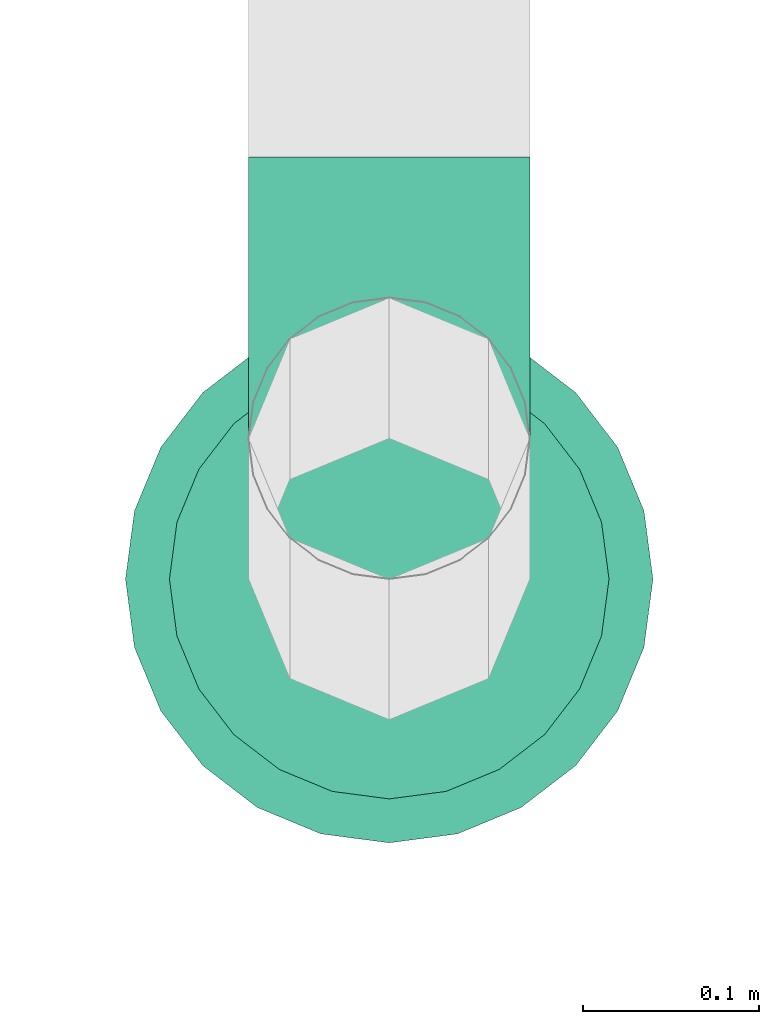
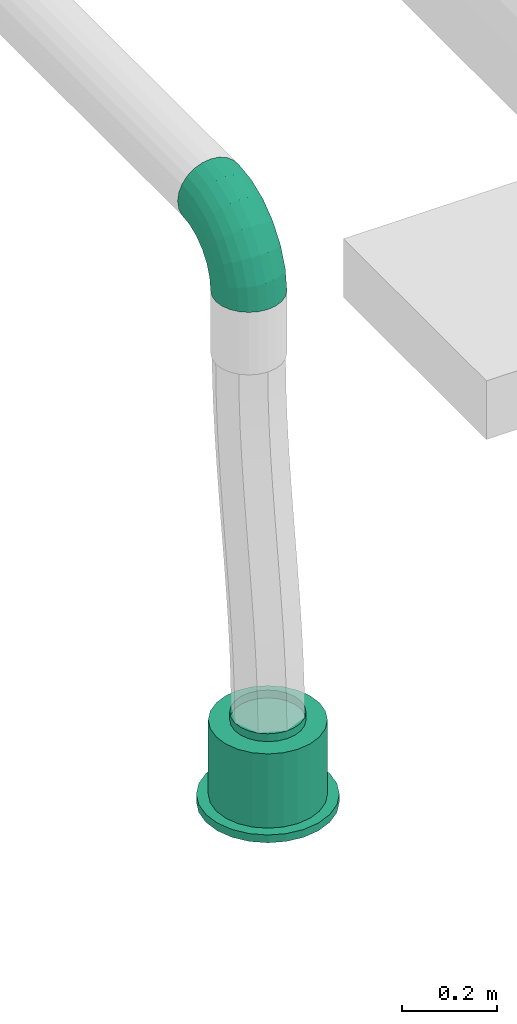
# One storey, part 183 of 374: 1 flow fitting, 1 flow terminal.
"""IFC2X3 building model written with IfcOpenShell, lengths in metres."""

import ifcopenshell
import ifcopenshell.guid

model = None  # the IFC model being written
_history = None  # IfcOwnerHistory: only IFC2X3 demands one
_inside = {}  # id of a spatial element -> (the spatial element, [elements in it])
_under = {}  # id of a project, library or spatial element -> (it, [spatial elements below it])
_declared = {}  # id of a project -> (the project, [libraries it declares])
_typed = {}  # id of a type object -> (the type object, [elements of that type])
_made_of = {}  # id of a material, layer set ... -> (it, [elements and type objects made of it])


def new_model(schema):
    """Start an empty IFC model of exactly this schema.

    Asked for "IFC4X3", IfcOpenShell would pick the latest addendum, in which some entities
    have other attributes; the version numbers below select the first issue.
    IFC2X3 requires an IfcOwnerHistory on every rooted entity: one is made here for all.
    """
    global model, _history
    if schema == "IFC4X3":
        model = ifcopenshell.file(schema_version=(4, 3, 0, 0))
    else:
        model = ifcopenshell.file(schema=schema)
    _inside.clear()
    _under.clear()
    _declared.clear()
    _typed.clear()
    _made_of.clear()
    _history = None
    if model.schema == "IFC2X3":
        org = make("IfcOrganization", Name="unknown")
        user = make(
            "IfcPersonAndOrganization",
            ThePerson=make("IfcPerson", FamilyName="unknown"),
            TheOrganization=org,
        )
        app = make(
            "IfcApplication",
            ApplicationDeveloper=org,
            Version="unknown",
            ApplicationFullName="unknown",
            ApplicationIdentifier="unknown",
        )
        _history = make(
            "IfcOwnerHistory",
            OwningUser=user,
            OwningApplication=app,
            ChangeAction="ADDED",
            CreationDate=0,
        )
    return model


def make(cls, **values):
    """One entity of the class cls with the attributes given. An attribute that is None is left unset."""
    return model.create_entity(
        cls, **{name: value for name, value in values.items() if value is not None}
    )


def rooted(cls, **values):
    """An entity with a GlobalId (a new one), such as an element, a storey or a relation."""
    return make(cls, GlobalId=ifcopenshell.guid.new(), OwnerHistory=_history, **values)


def si_unit(unit_type, name, prefix=None):
    """IfcSIUnit, for example si_unit("LENGTHUNIT", "METRE", prefix="MILLI")."""
    return make("IfcSIUnit", UnitType=unit_type, Prefix=prefix, Name=name)


def assignment(units):
    """IfcUnitAssignment: the units of a project."""
    return None if units is None else make("IfcUnitAssignment", Units=units)


def point(xyz):
    """IfcCartesianPoint."""
    return None if xyz is None else make("IfcCartesianPoint", Coordinates=xyz)


def direction(xyz):
    """IfcDirection."""
    return None if xyz is None else make("IfcDirection", DirectionRatios=xyz)


def frame(location, z_axis=None, x_axis=None):
    """IfcAxis2Placement3D, a coordinate frame: its origin and axes. An axis left out is left unset."""
    return make(
        "IfcAxis2Placement3D",
        Location=point(location),
        Axis=direction(z_axis),
        RefDirection=direction(x_axis),
    )


def origin():
    """The frame at (0, 0, 0) with its axes left unset."""
    return frame((0.0, 0.0, 0.0))


def place(relative_to, where):
    """IfcLocalPlacement: puts the frame where relative to a parent placement (None: the world)."""
    return make(
        "IfcLocalPlacement", PlacementRelTo=relative_to, RelativePlacement=where
    )


def context(
    kind, dimensions, precision=None, world=None, true_north=None, identifier=None
):
    """IfcGeometricRepresentationContext, for example the 3D "Model" context."""
    return make(
        "IfcGeometricRepresentationContext",
        ContextIdentifier=identifier,
        ContextType=kind,
        CoordinateSpaceDimension=dimensions,
        Precision=precision,
        WorldCoordinateSystem=world,
        TrueNorth=true_north,
    )


def subcontext(parent, identifier, kind, view, scale=None):
    """IfcGeometricRepresentationSubContext, for example "Body" below "Model"."""
    return make(
        "IfcGeometricRepresentationSubContext",
        ContextIdentifier=identifier,
        ContextType=kind,
        ParentContext=parent,
        TargetScale=scale,
        TargetView=view,
    )


def project(units=None, contexts=None):
    """IfcProject with its units and contexts."""
    return rooted(
        "IfcProject",
        Name="project",
        RepresentationContexts=contexts,
        UnitsInContext=assignment(units),
    )


def spatial(cls, under=None, at=None, **own):
    """A site, building, storey or space (cls), placed at a placement, below another one or the project."""
    s = rooted(cls, ObjectPlacement=at, **own)
    if under is not None:
        _under.setdefault(under.id(), (under, []))[1].append(s)
    return s


def faces_of(points, faces, orient=None, outer=None):
    """IfcFace entities. A face is a list of loops; a loop is a list of indices into points, from 0.

    orient and outer hold one flag for each loop. By default every Orientation is true, the
    first loop of a face is its IfcFaceOuterBound and the others are IfcFaceBound.
    """
    made = []
    for i, loops in enumerate(faces):
        bounds = []
        for j, loop in enumerate(loops):
            is_outer = j == 0 if outer is None else outer[i][j]
            bounds.append(
                make(
                    "IfcFaceOuterBound" if is_outer else "IfcFaceBound",
                    Bound=make("IfcPolyLoop", Polygon=[points[k] for k in loop]),
                    Orientation=True if orient is None else orient[i][j],
                )
            )
        made.append(make("IfcFace", Bounds=bounds))
    return made


def open_shell(faces, orient=None, outer=None):
    """The faces of one IfcOpenShell. surface_model builds it on its shared points."""
    return ("IfcOpenShell", faces, orient, outer)


def surface_model(cls, points, shells):
    """IfcFaceBasedSurfaceModel or IfcShellBasedSurfaceModel (cls): surfaces that need not close."""
    shared = [point(p) for p in points]
    made = [make(c, CfsFaces=faces_of(shared, fs, o, b)) for c, fs, o, b in shells]
    if cls == "IfcFaceBasedSurfaceModel":
        return make(cls, FbsmFaces=made)
    return make(cls, SbsmBoundary=made)


def shape(context_of_items, identifier, shape_type, items):
    """IfcShapeRepresentation: the items that make up one representation, for example the "Body"."""
    return make(
        "IfcShapeRepresentation",
        ContextOfItems=context_of_items,
        RepresentationIdentifier=identifier,
        RepresentationType=shape_type,
        Items=items,
    )


def source(mapping_origin, context_of_items, identifier, shape_type, items):
    """IfcRepresentationMap: a shape defined once, which mapped items show again and again."""
    return make(
        "IfcRepresentationMap",
        MappingOrigin=mapping_origin,
        MappedRepresentation=shape(context_of_items, identifier, shape_type, items),
    )


def transform(
    local_origin,
    x_axis=None,
    y_axis=None,
    z_axis=None,
    scale=None,
    scale2=None,
    scale3=None,
    uniform=True,
):
    """IfcCartesianTransformationOperator3D, or its non-uniform kind. x_axis, y_axis, z_axis: its Axis1, 2, 3."""
    if uniform:
        return make(
            "IfcCartesianTransformationOperator3D",
            Axis1=direction(x_axis),
            Axis2=direction(y_axis),
            LocalOrigin=point(local_origin),
            Scale=scale,
            Axis3=direction(z_axis),
        )
    return make(
        "IfcCartesianTransformationOperator3DnonUniform",
        Axis1=direction(x_axis),
        Axis2=direction(y_axis),
        LocalOrigin=point(local_origin),
        Scale=scale,
        Axis3=direction(z_axis),
        Scale2=scale2,
        Scale3=scale3,
    )


def mapped(mapping_source, mapping_target):
    """IfcMappedItem: shows the shape of a source again, moved by a transform."""
    return make(
        "IfcMappedItem", MappingSource=mapping_source, MappingTarget=mapping_target
    )


def made_of(thing, what):
    """Note that an element or type object is made of a material, layer set ...; save() writes the relation."""
    if what is not None:
        _made_of.setdefault(what.id(), (what, []))[1].append(thing)
    return thing


def element(
    cls,
    number,
    at=None,
    inside=None,
    cuts=None,
    type_object=None,
    material=None,
    context=None,
    identifier="Body",
    shape_type=None,
    held_by="IfcProductDefinitionShape",
    body=None,
    shapes=None,
    **own,
):
    """One element of the class cls, such as IfcWall. Its Tag is "e" and its number.

    at: its placement. inside: the storey or other place that contains it. cuts: it is an
    opening in that element (IfcRelVoidsElement). A single representation is given by context,
    identifier, shape_type and body (its items); several are given by shapes. held_by: the class
    of the entity that holds the representations. save() writes the other relations.
    """
    e = rooted(cls, Tag="e%d" % number, ObjectPlacement=at, **own)
    if body is not None:
        shapes = [shape(context, identifier, shape_type, body)]
    if shapes is not None:
        e.Representation = make(held_by, Representations=shapes)
    if inside is not None:
        _inside.setdefault(inside.id(), (inside, []))[1].append(e)
    if cuts is not None:
        rooted(
            "IfcRelVoidsElement", RelatingBuildingElement=cuts, RelatedOpeningElement=e
        )
    if type_object is not None:
        _typed.setdefault(type_object.id(), (type_object, []))[1].append(e)
    return made_of(e, material)


def aggregate(whole, parts):
    """IfcRelAggregates: a whole, such as a stair, and the parts it consists of."""
    return rooted("IfcRelAggregates", RelatingObject=whole, RelatedObjects=parts)


def save(model, path):
    """Write the relations noted so far, then the file.

    IfcRelAggregates (storeys below a building ...), IfcRelContainedInSpatialStructure (elements
    in a storey), IfcRelDefinesByType, IfcRelAssociatesMaterial and IfcRelDeclares: one each for
    every whole, place, type object, material and project.
    """
    for whole, parts in _under.values():
        aggregate(whole, parts)
    for where, things in _inside.values():
        rooted(
            "IfcRelContainedInSpatialStructure",
            RelatedElements=things,
            RelatingStructure=where,
        )
    for kind, things in _typed.values():
        rooted("IfcRelDefinesByType", RelatedObjects=things, RelatingType=kind)
    for what, things in _made_of.values():
        rooted("IfcRelAssociatesMaterial", RelatedObjects=things, RelatingMaterial=what)
    for by, libraries in _declared.values():
        rooted("IfcRelDeclares", RelatingContext=by, RelatedDefinitions=libraries)
    model.write(path)


model = new_model("IFC2X3")

# Units and contexts
model_context = context("Model", 3, precision=1e-05, world=origin(), true_north=direction((-0.4480736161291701, 0.8939966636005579)))
body_context = subcontext(model_context, "Body", "Model", "MODEL_VIEW")
ifc_project = project(units=[si_unit("LENGTHUNIT", "METRE"), si_unit("AREAUNIT", "SQUARE_METRE"), si_unit("VOLUMEUNIT", "CUBIC_METRE"), si_unit("PLANEANGLEUNIT", "RADIAN"), si_unit("THERMODYNAMICTEMPERATUREUNIT", "KELVIN"), si_unit("MASSUNIT", "GRAM", prefix="KILO"), si_unit("TIMEUNIT", "SECOND")], contexts=[model_context])

# Site, building, storey
site_placement = place(None, origin())
site = spatial("IfcSite", under=ifc_project, at=site_placement, Name="Site 1", CompositionType="ELEMENT")
building_placement = place(site_placement, origin())
building = spatial("IfcBuilding", under=site, at=building_placement, Name="Undefined", CompositionType="ELEMENT")
storey_placement = place(building_placement, origin())
storey = spatial("IfcBuildingStorey", under=building, at=storey_placement, Name="Rez de chauss\x8ee", CompositionType="ELEMENT", Elevation=0.0)

# Flow terminal
shared_shape_1 = source(origin(), body_context, "Body", "SurfaceModel", [
    surface_model("IfcFaceBasedSurfaceModel", [(0.0, 0.0, 0.0), (0.03915785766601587, 0.0, 0.0), (0.03915785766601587, 0.020000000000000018, 0.0), (3.552713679e-15, 0.020000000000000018, 0.0), (0.07698144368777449, 0.0, -0.010134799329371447), (0.07698144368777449, 0.020000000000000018, -0.010134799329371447), (0.11089314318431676, 0.0, -0.02971372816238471), (0.11089314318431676, 0.020000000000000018, -0.02971372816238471), (0.13858192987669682, 0.0, -0.05740251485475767), (0.13858192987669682, 0.020000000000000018, -0.05740251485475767), (0.15816085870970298, 0.0, -0.09131421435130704), (0.15816085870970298, 0.020000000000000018, -0.09131421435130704), (0.16829565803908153, 0.0, -0.12913780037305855), (0.16829565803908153, 0.020000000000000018, -0.12913780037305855), (0.16829565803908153, 0.0, -0.16829565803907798), (0.16829565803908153, 0.020000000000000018, -0.16829565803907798), (0.15816085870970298, 0.0, -0.20611924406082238), (0.15816085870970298, 0.020000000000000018, -0.20611924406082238), (0.13858192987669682, 0.0, -0.24003094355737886), (0.13858192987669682, 0.020000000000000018, -0.24003094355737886), (0.11089314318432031, 0.0, -0.2677197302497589), (0.11089314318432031, 0.020000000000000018, -0.2677197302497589), (0.07698144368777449, 0.0, -0.2872986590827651), (0.07698144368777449, 0.020000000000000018, -0.2872986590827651), (0.039157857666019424, 0.0, -0.29743345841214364), (0.039157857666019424, 0.020000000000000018, -0.29743345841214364), (3.552713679e-15, 0.0, -0.29743345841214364), (3.552713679e-15, 0.020000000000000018, -0.29743345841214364), (-0.03782358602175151, 0.0, -0.2872986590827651), (-0.03782358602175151, 0.020000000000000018, -0.2872986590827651), (-0.07173528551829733, 0.0, -0.2677197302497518), (-0.07173528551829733, 0.020000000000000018, -0.2677197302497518), (-0.0994240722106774, 0.0, -0.24003094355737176), (-0.0994240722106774, 0.020000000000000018, -0.24003094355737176), (-0.11900300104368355, 0.0, -0.2061192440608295), (-0.11900300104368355, 0.020000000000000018, -0.2061192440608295), (-0.1291378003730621, 0.0, -0.16829565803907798), (-0.1291378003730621, 0.020000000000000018, -0.16829565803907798), (-0.1291378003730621, 0.0, -0.12913780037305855), (-0.1291378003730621, 0.020000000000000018, -0.12913780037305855), (-0.11900300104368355, 0.0, -0.09131421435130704), (-0.11900300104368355, 0.020000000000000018, -0.09131421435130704), (-0.0994240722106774, 0.0, -0.05740251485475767), (-0.0994240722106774, 0.020000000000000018, -0.05740251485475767), (-0.07173528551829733, 0.0, -0.029713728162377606), (-0.07173528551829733, 0.020000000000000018, -0.029713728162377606), (-0.03782358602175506, 0.0, -0.010134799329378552), (-0.03782358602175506, 0.020000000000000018, -0.010134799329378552), (0.019578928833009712, 0.0, -0.14871672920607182), (0.019578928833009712, 0.020000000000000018, -0.14871672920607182), (0.003263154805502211, 0.020000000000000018, -0.02478612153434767), (0.035894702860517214, 0.020000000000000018, -0.02478612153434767), (0.035894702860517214, 0.20999999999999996, -0.02478612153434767), (0.003263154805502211, 0.20999999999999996, -0.02478612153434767), (0.06741435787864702, 0.020000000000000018, -0.033231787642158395), (0.06741435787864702, 0.20999999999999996, -0.033231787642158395), (0.0956741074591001, 0.020000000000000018, -0.04954756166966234), (0.0956741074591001, 0.20999999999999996, -0.04954756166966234), (0.11874809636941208, 0.020000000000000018, -0.07262155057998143), (0.11874809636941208, 0.20999999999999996, -0.07262155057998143), (0.13506387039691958, 0.020000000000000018, -0.10088130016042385), (0.13506387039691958, 0.20999999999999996, -0.10088130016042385), (0.1435095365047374, 0.020000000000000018, -0.13240095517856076), (0.1435095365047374, 0.20999999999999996, -0.13240095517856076), (0.1435095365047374, 0.020000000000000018, -0.16503250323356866), (0.1435095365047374, 0.20999999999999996, -0.16503250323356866), (0.13506387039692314, 0.020000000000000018, -0.19655215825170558), (0.13506387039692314, 0.20999999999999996, -0.19655215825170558), (0.11874809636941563, 0.020000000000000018, -0.2248119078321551), (0.11874809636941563, 0.20999999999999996, -0.2248119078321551), (0.09567410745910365, 0.020000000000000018, -0.24788589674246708), (0.09567410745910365, 0.20999999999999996, -0.24788589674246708), (0.06741435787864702, 0.020000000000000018, -0.26420167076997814), (0.06741435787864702, 0.20999999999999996, -0.26420167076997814), (0.035894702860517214, 0.020000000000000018, -0.27264733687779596), (0.035894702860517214, 0.20999999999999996, -0.27264733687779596), (0.0032631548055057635, 0.020000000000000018, -0.27264733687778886), (0.0032631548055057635, 0.20999999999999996, -0.27264733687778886), (-0.028256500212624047, 0.020000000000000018, -0.26420167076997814), (-0.028256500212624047, 0.20999999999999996, -0.26420167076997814), (-0.05651624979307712, 0.020000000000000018, -0.2478858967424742), (-0.05651624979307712, 0.20999999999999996, -0.2478858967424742), (-0.07959023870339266, 0.020000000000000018, -0.2248119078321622), (-0.07959023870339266, 0.20999999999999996, -0.2248119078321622), (-0.09590601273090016, 0.020000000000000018, -0.19655215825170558), (-0.09590601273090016, 0.20999999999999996, -0.19655215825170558), (-0.10435167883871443, 0.020000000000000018, -0.16503250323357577), (-0.10435167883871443, 0.20999999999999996, -0.16503250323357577), (-0.10435167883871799, 0.020000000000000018, -0.13240095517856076), (-0.10435167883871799, 0.20999999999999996, -0.13240095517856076), (-0.09590601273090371, 0.020000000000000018, -0.10088130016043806), (-0.09590601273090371, 0.20999999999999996, -0.10088130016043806), (-0.07959023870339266, 0.020000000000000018, -0.07262155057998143), (-0.07959023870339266, 0.20999999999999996, -0.07262155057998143), (-0.056516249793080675, 0.020000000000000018, -0.04954756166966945), (-0.056516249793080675, 0.20999999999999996, -0.04954756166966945), (-0.028256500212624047, 0.020000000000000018, -0.033231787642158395), (-0.028256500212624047, 0.20999999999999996, -0.033231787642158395), (0.019578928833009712, 0.20999999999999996, -0.14871672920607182), (0.009136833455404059, 0.20999999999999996, -0.06940114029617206), (0.030021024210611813, 0.20999999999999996, -0.06940114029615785), (0.030021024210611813, 0.22999999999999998, -0.06940114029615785), (0.009136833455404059, 0.22999999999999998, -0.06940114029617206), (0.05019360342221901, 0.20999999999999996, -0.07480636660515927), (0.05019360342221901, 0.22999999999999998, -0.07480636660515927), (0.06827984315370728, 0.20999999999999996, -0.08524846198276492), (0.06827984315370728, 0.22999999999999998, -0.08524846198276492), (0.0830471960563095, 0.20999999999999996, -0.10001581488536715), (0.0830471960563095, 0.22999999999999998, -0.10001581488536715), (0.0934892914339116, 0.20999999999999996, -0.11810205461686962), (0.0934892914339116, 0.22999999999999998, -0.11810205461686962), (0.09889451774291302, 0.20999999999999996, -0.13827463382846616), (0.09889451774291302, 0.22999999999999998, -0.13827463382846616), (0.09889451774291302, 0.20999999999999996, -0.15915882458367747), (0.09889451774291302, 0.22999999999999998, -0.15915882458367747), (0.09348929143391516, 0.20999999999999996, -0.179331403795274), (0.09348929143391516, 0.22999999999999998, -0.179331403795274), (0.0830471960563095, 0.20999999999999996, -0.19741764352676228), (0.0830471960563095, 0.22999999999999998, -0.19741764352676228), (0.06827984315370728, 0.20999999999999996, -0.2121849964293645), (0.06827984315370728, 0.22999999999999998, -0.2121849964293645), (0.05019360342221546, 0.20999999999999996, -0.22262709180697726), (0.05019360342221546, 0.22999999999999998, -0.22262709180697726), (0.030021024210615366, 0.20999999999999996, -0.22803231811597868), (0.030021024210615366, 0.22999999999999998, -0.22803231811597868), (0.009136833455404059, 0.20999999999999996, -0.22803231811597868), (0.009136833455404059, 0.22999999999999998, -0.22803231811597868), (-0.011035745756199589, 0.20999999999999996, -0.22262709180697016), (-0.011035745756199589, 0.22999999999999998, -0.22262709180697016), (-0.0291219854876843, 0.20999999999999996, -0.2121849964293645), (-0.0291219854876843, 0.22999999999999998, -0.2121849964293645), (-0.043889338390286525, 0.20999999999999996, -0.19741764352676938), (-0.043889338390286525, 0.22999999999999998, -0.19741764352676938), (-0.05433143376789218, 0.20999999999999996, -0.17933140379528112), (-0.05433143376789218, 0.22999999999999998, -0.17933140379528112), (-0.05973666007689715, 0.20999999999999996, -0.15915882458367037), (-0.05973666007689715, 0.22999999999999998, -0.15915882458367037), (-0.0597366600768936, 0.20999999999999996, -0.13827463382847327), (-0.0597366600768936, 0.22999999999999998, -0.13827463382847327), (-0.05433143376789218, 0.20999999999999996, -0.11810205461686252), (-0.05433143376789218, 0.22999999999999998, -0.11810205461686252), (-0.043889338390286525, 0.20999999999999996, -0.10001581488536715), (-0.043889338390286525, 0.22999999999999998, -0.10001581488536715), (-0.02912198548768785, 0.20999999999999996, -0.08524846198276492), (-0.02912198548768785, 0.22999999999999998, -0.08524846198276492), (-0.011035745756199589, 0.20999999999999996, -0.07480636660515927), (-0.011035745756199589, 0.22999999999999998, -0.07480636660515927)], [open_shell([[[0, 1, 2, 3]], [[1, 4, 5, 2]], [[4, 6, 7, 5]], [[6, 8, 9, 7]], [[8, 10, 11, 9]], [[10, 12, 13, 11]], [[12, 14, 15, 13]], [[14, 16, 17, 15]], [[16, 18, 19, 17]], [[18, 20, 21, 19]], [[20, 22, 23, 21]], [[22, 24, 25, 23]], [[24, 26, 27, 25]], [[26, 28, 29, 27]], [[28, 30, 31, 29]], [[30, 32, 33, 31]], [[32, 34, 35, 33]], [[34, 36, 37, 35]], [[36, 38, 39, 37]], [[38, 40, 41, 39]], [[40, 42, 43, 41]], [[42, 44, 45, 43]], [[44, 46, 47, 45]], [[46, 0, 3, 47]], [[48, 1, 0]], [[48, 4, 1]], [[48, 6, 4]], [[48, 8, 6]], [[48, 10, 8]], [[48, 12, 10]], [[48, 14, 12]], [[48, 16, 14]], [[48, 18, 16]], [[48, 20, 18]], [[48, 22, 20]], [[48, 24, 22]], [[48, 26, 24]], [[48, 28, 26]], [[48, 30, 28]], [[48, 32, 30]], [[48, 34, 32]], [[48, 36, 34]], [[48, 38, 36]], [[48, 40, 38]], [[48, 42, 40]], [[48, 44, 42]], [[48, 46, 44]], [[48, 0, 46]], [[49, 47, 3]], [[49, 45, 47]], [[49, 43, 45]], [[49, 41, 43]], [[49, 39, 41]], [[49, 37, 39]], [[49, 35, 37]], [[49, 33, 35]], [[49, 31, 33]], [[49, 29, 31]], [[49, 27, 29]], [[49, 25, 27]], [[49, 23, 25]], [[49, 21, 23]], [[49, 19, 21]], [[49, 17, 19]], [[49, 15, 17]], [[49, 13, 15]], [[49, 11, 13]], [[49, 9, 11]], [[49, 7, 9]], [[49, 5, 7]], [[49, 2, 5]], [[49, 3, 2]], [[50, 51, 52, 53]], [[51, 54, 55, 52]], [[54, 56, 57, 55]], [[56, 58, 59, 57]], [[58, 60, 61, 59]], [[60, 62, 63, 61]], [[62, 64, 65, 63]], [[64, 66, 67, 65]], [[66, 68, 69, 67]], [[68, 70, 71, 69]], [[70, 72, 73, 71]], [[72, 74, 75, 73]], [[74, 76, 77, 75]], [[76, 78, 79, 77]], [[78, 80, 81, 79]], [[80, 82, 83, 81]], [[82, 84, 85, 83]], [[84, 86, 87, 85]], [[86, 88, 89, 87]], [[88, 90, 91, 89]], [[90, 92, 93, 91]], [[92, 94, 95, 93]], [[94, 96, 97, 95]], [[96, 50, 53, 97]], [[49, 51, 50]], [[49, 54, 51]], [[49, 56, 54]], [[49, 58, 56]], [[49, 60, 58]], [[49, 62, 60]], [[49, 64, 62]], [[49, 66, 64]], [[49, 68, 66]], [[49, 70, 68]], [[49, 72, 70]], [[49, 74, 72]], [[49, 76, 74]], [[49, 78, 76]], [[49, 80, 78]], [[49, 82, 80]], [[49, 84, 82]], [[49, 86, 84]], [[49, 88, 86]], [[49, 90, 88]], [[49, 92, 90]], [[49, 94, 92]], [[49, 96, 94]], [[49, 50, 96]], [[98, 97, 53]], [[98, 95, 97]], [[98, 93, 95]], [[98, 91, 93]], [[98, 89, 91]], [[98, 87, 89]], [[98, 85, 87]], [[98, 83, 85]], [[98, 81, 83]], [[98, 79, 81]], [[98, 77, 79]], [[98, 75, 77]], [[98, 73, 75]], [[98, 71, 73]], [[98, 69, 71]], [[98, 67, 69]], [[98, 65, 67]], [[98, 63, 65]], [[98, 61, 63]], [[98, 59, 61]], [[98, 57, 59]], [[98, 55, 57]], [[98, 52, 55]], [[98, 53, 52]], [[99, 100, 101, 102]], [[100, 103, 104, 101]], [[103, 105, 106, 104]], [[105, 107, 108, 106]], [[107, 109, 110, 108]], [[109, 111, 112, 110]], [[111, 113, 114, 112]], [[113, 115, 116, 114]], [[115, 117, 118, 116]], [[117, 119, 120, 118]], [[119, 121, 122, 120]], [[121, 123, 124, 122]], [[123, 125, 126, 124]], [[125, 127, 128, 126]], [[127, 129, 130, 128]], [[129, 131, 132, 130]], [[131, 133, 134, 132]], [[133, 135, 136, 134]], [[135, 137, 138, 136]], [[137, 139, 140, 138]], [[139, 141, 142, 140]], [[141, 143, 144, 142]], [[143, 145, 146, 144]], [[145, 99, 102, 146]]])]),
])
flow_terminal_placement = place(storey_placement, origin())
element("IfcFlowTerminal", 1, at=flow_terminal_placement, inside=storey, Name="Air diffuseur - bouche", ObjectType="Air diffuseur - bouche", context=body_context, shape_type="MappedRepresentation", body=[
    mapped(shared_shape_1, transform((64.2900100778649, 7.104998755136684, 2.38), x_axis=(-0.9914448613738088, -0.13052619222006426, 0.0), y_axis=(0.0, 0.0, 1.0), z_axis=(-0.13052619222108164, 0.9914448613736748, 0.0))),
])

# Flow fitting
shared_shape_2 = source(origin(), body_context, "Body", "SurfaceModel", [
    surface_model("IfcFaceBasedSurfaceModel", [(0.06265257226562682, -8.8817842e-16, 0.0), (0.062296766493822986, 0.02088115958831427, -7.105427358e-15), (0.0003558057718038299, 0.020881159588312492, 7.105427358e-15), (0.0, 0.0, 0.0), (-0.059474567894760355, 0.022956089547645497, -0.015896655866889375), (-0.06051773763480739, 0.002098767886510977, -0.01607928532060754), (-0.11311701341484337, 0.02696454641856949, -0.04660663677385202), (-0.11477645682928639, 0.006153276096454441, -0.04714207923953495), (-0.15691588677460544, 0.0326333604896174, -0.09003710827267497), (-0.15907851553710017, 0.01188721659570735, -0.09107150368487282), (-0.18788636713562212, 0.03957621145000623, -0.14322835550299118), (-0.1904048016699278, 0.01890983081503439, -0.14487384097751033), (-0.2039178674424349, 0.04731995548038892, -0.20255548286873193), (-0.20662048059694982, 0.026742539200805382, -0.20488255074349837), (0.061253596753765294, 0.04103889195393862, -0.0053597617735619), (0.0013989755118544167, 0.04103889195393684, -0.005359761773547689), (-0.05641614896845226, 0.04304393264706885, -0.02072097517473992), (-0.10825177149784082, 0.04691737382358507, -0.050396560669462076), (-0.15057538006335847, 0.05239524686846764, -0.09236417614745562), (-0.18050269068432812, 0.05910424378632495, -0.14376379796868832), (-0.19599420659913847, 0.06658715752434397, -0.20109262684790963), (0.05959415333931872, 0.05909948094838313, -0.01571402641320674), (0.003058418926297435, 0.05909948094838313, -0.01571402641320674), (-0.05155090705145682, 0.06099334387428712, -0.030223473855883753), (-0.10051228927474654, 0.06465200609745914, -0.058253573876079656), (-0.1404890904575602, 0.0698261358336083, -0.09789412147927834), (-0.16875695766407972, 0.0761631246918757, -0.14644367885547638), (-0.18338948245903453, 0.08323111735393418, -0.2005936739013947), (0.057431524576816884, 0.07383212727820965, -0.030357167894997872), (0.005221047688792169, 0.07383212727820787, -0.03035716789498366), (-0.0452104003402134, 0.07558110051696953, -0.04375657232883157), (-0.09042599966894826, 0.07895985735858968, -0.06964223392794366), (-0.12734438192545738, 0.08373814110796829, -0.10625008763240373), (-0.15344962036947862, 0.08959031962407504, -0.15108536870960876), (-0.16696268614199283, 0.0961175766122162, -0.20109262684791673), (0.054913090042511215, 0.0842328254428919, -0.048291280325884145), (0.007739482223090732, 0.08423282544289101, -0.04829128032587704), (-0.037826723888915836, 0.08581307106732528, -0.06039801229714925), (-0.07868026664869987, 0.08886587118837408, -0.08378642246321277), (-0.11203704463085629, 0.09318318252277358, -0.11686262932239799), (-0.13562384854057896, 0.09847078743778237, -0.1573725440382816), (-0.14783327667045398, 0.10436834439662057, -0.20255548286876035), (0.05221047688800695, 0.0895927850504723, -0.06829418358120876), (0.010442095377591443, 0.08959278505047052, -0.06829418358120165), (-0.029903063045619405, 0.09099196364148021, -0.07901370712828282), (-0.06607554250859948, 0.09369496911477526, -0.0997222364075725), (-0.0956102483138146, 0.0975175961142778, -0.12900851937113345), (-0.11649443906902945, 0.10219933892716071, -0.16487674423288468), (-0.12730489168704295, 0.1074211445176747, -0.2048825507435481), (0.04950786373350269, 0.08954673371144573, -0.08900271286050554), (0.013144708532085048, 0.08954673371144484, -0.08900271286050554), (-0.02197940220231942, 0.09076484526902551, -0.09833502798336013), (-0.05347081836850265, 0.09311805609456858, -0.11636367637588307), (-0.0791834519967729, 0.09644599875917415, -0.14186003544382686), (-0.09736502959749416, 0.10052187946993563, -0.17308657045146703), (-0.10677650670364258, 0.1050679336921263, -0.20791524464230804), (0.04698942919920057, 0.08409780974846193, -0.10900561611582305), (0.015663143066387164, 0.08409780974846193, -0.10900561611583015), (-0.014595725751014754, 0.08514719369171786, -0.11704525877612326), (-0.0417250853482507, 0.0871744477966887, -0.13257665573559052), (-0.06387611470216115, 0.09004141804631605, -0.15454136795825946), (-0.07953925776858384, 0.09355272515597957, -0.1814425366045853), (-0.08764709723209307, 0.09746907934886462, -0.21144689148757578), (0.04482680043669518, 0.0736173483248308, -0.12693972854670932), (0.017825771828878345, 0.0736173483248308, -0.12693972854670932), (-0.008255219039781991, 0.07452184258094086, -0.13386932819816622), (-0.03163879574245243, 0.0762691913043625, -0.14725628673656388), (-0.050731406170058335, 0.07874031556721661, -0.1661883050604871), (-0.06423192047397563, 0.08176681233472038, -0.18937519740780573), (-0.07122030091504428, 0.08514243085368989, -0.21523681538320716), (0.04316735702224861, 0.058819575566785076, -0.14158287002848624), (0.019485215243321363, 0.058819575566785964, -0.14158287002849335), (-0.0033899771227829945, 0.05961289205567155, -0.14766070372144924), (-0.02389931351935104, 0.06114546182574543, -0.15940217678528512), (-0.04064511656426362, 0.06331284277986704, -0.17600712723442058), (-0.052486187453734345, 0.06596733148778, -0.19634395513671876), (-0.05861557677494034, 0.06892802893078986, -0.2190267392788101), (0.04212418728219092, 0.040712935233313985, -0.15193713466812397), (0.020528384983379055, 0.040712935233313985, -0.15193713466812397), (-0.0003315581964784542, 0.041436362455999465, -0.15747952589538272), (-0.019034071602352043, 0.04283391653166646, -0.16818660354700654), (-0.03430460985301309, 0.04481035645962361, -0.1833286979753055), (-0.04510251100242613, 0.047230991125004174, -0.20187390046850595), (-0.05069191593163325, 0.04993085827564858, -0.22255838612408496), (0.04176838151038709, 0.02053136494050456, -0.15729689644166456), (0.020884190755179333, 0.02053136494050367, -0.15729689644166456), (0.0007116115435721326, 0.021230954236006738, -0.16265665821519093), (-0.017374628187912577, 0.022582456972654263, -0.17301092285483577), (-0.03214198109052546, 0.024493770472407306, -0.1876540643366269), (-0.042584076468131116, 0.026834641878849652, -0.20558817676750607), (-0.04798930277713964, 0.02944554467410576, -0.22559108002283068), (0.04212418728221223, -0.000349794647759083, -0.15729689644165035), (0.020528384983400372, -0.000349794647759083, -0.15729689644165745), (-0.0003315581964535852, 0.00037363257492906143, -0.1628392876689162), (-0.019034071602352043, 0.0017711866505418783, -0.17354636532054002), (-0.03430460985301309, 0.0037476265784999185, -0.18868845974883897), (-0.04510251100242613, 0.00616826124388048, -0.20723366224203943), (-0.05069191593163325, 0.008868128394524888, -0.22791814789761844), (0.04316735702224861, -0.020507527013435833, -0.15193713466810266), (0.019485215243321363, -0.020507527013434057, -0.15193713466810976), (-0.0033899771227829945, -0.019714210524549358, -0.15801496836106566), (-0.02389931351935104, -0.01818164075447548, -0.16975644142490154), (-0.04064511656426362, -0.01601425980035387, -0.186361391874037), (-0.052486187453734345, -0.013359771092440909, -0.20669821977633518), (-0.05861557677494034, -0.010399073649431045, -0.22938100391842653), (0.04482680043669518, -0.03856811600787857, -0.1415828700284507), (0.017825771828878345, -0.03856811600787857, -0.1415828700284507), (-0.008255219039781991, -0.03766362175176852, -0.1485124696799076), (-0.03163879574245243, -0.03591627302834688, -0.16189942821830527), (-0.050731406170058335, -0.03344514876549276, -0.1808314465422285), (-0.06423192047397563, -0.030418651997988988, -0.20401833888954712), (-0.07122030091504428, -0.027043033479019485, -0.22987995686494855), (0.04698942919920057, -0.05330076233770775, -0.12693972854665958), (0.015663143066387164, -0.05330076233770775, -0.12693972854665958), (-0.014595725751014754, -0.05225137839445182, -0.1349793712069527), (-0.0417250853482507, -0.05022412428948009, -0.15051076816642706), (-0.06387611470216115, -0.047357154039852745, -0.172475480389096), (-0.07953925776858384, -0.043845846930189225, -0.19937664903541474), (-0.08764709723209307, -0.03992949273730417, -0.2293810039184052), (0.04950786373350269, -0.06370146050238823, -0.10900561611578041), (0.013144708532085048, -0.06370146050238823, -0.10900561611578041), (-0.02197940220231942, -0.06248334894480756, -0.11833793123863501), (-0.05347081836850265, -0.06013013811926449, -0.13636657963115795), (-0.0791834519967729, -0.05680219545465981, -0.16186293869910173), (-0.09736502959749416, -0.05272631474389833, -0.1930894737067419), (-0.10677650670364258, -0.04818026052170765, -0.2279181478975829), (0.05221047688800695, -0.06906142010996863, -0.08900271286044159), (0.010442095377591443, -0.06906142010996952, -0.08900271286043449), (-0.029903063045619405, -0.06766224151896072, -0.09972223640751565), (-0.06607554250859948, -0.06495923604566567, -0.12043076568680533), (-0.0956102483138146, -0.06113660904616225, -0.14971704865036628), (-0.11649443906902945, -0.05645486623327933, -0.1855852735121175), (-0.12730489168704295, -0.05123306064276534, -0.22559108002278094), (0.054913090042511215, -0.06901536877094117, -0.06829418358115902), (0.007739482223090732, -0.06901536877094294, -0.06829418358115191), (-0.037826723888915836, -0.06743512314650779, -0.08040091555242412), (-0.07868026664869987, -0.06438232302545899, -0.10378932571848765), (-0.11203704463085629, -0.06006501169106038, -0.13686553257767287), (-0.13562384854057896, -0.0547774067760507, -0.17737544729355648), (-0.14783327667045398, -0.04887984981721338, -0.22255838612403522), (0.057431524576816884, -0.06356644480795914, -0.0482912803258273), (0.005221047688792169, -0.06356644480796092, -0.04829128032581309), (-0.0452104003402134, -0.061817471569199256, -0.0616906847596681), (-0.09042599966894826, -0.05843871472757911, -0.0875763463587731), (-0.12734438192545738, -0.05366043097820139, -0.12418420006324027), (-0.15344962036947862, -0.04780825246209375, -0.1690194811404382), (-0.16696268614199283, -0.041280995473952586, -0.21902673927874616), (0.05959415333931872, -0.05308598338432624, -0.030357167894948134), (0.003058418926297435, -0.05308598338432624, -0.030357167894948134), (-0.05155090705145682, -0.05119212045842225, -0.04486661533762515), (-0.10051228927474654, -0.04753345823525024, -0.07289671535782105), (-0.1404890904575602, -0.04235932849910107, -0.11253726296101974), (-0.16875695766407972, -0.03602233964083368, -0.16108682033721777), (-0.18338948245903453, -0.02895434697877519, -0.2152368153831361), (0.061253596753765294, -0.03828821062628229, -0.015714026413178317), (0.0013989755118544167, -0.03828821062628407, -0.015714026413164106), (-0.05641614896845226, -0.03628316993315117, -0.031075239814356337), (-0.10825177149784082, -0.03240972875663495, -0.06075082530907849), (-0.15057538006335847, -0.026931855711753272, -0.10271844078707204), (-0.18050269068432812, -0.02022285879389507, -0.15411806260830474), (-0.19599420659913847, -0.012739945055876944, -0.21144689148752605), (0.062296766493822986, -0.020181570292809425, -0.005359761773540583), (0.0003558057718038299, -0.020181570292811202, -0.0053597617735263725), (-0.059474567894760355, -0.018106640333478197, -0.021256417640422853), (-0.11311701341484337, -0.014098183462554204, -0.051966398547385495), (-0.15691588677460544, -0.00842936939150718, -0.09539687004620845), (-0.18788636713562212, -0.0014865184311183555, -0.14858811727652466), (-0.2039178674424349, 0.006257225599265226, -0.2079152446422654)], [open_shell([[[0, 1, 2, 3]], [[3, 2, 4, 5]], [[5, 4, 6, 7]], [[7, 6, 8, 9]], [[9, 8, 10, 11]], [[11, 10, 12, 13]], [[1, 14, 15, 2]], [[2, 15, 16, 4]], [[4, 16, 17, 6]], [[6, 17, 18, 8]], [[8, 18, 19, 10]], [[10, 19, 20, 12]], [[14, 21, 22, 15]], [[15, 22, 23, 16]], [[16, 23, 24, 17]], [[17, 24, 25, 18]], [[18, 25, 26, 19]], [[19, 26, 27, 20]], [[21, 28, 29, 22]], [[22, 29, 30, 23]], [[23, 30, 31, 24]], [[24, 31, 32, 25]], [[25, 32, 33, 26]], [[26, 33, 34, 27]], [[28, 35, 36, 29]], [[29, 36, 37, 30]], [[30, 37, 38, 31]], [[31, 38, 39, 32]], [[32, 39, 40, 33]], [[33, 40, 41, 34]], [[35, 42, 43, 36]], [[36, 43, 44, 37]], [[37, 44, 45, 38]], [[38, 45, 46, 39]], [[39, 46, 47, 40]], [[40, 47, 48, 41]], [[42, 49, 50, 43]], [[43, 50, 51, 44]], [[44, 51, 52, 45]], [[45, 52, 53, 46]], [[46, 53, 54, 47]], [[47, 54, 55, 48]], [[49, 56, 57, 50]], [[50, 57, 58, 51]], [[51, 58, 59, 52]], [[52, 59, 60, 53]], [[53, 60, 61, 54]], [[54, 61, 62, 55]], [[56, 63, 64, 57]], [[57, 64, 65, 58]], [[58, 65, 66, 59]], [[59, 66, 67, 60]], [[60, 67, 68, 61]], [[61, 68, 69, 62]], [[63, 70, 71, 64]], [[64, 71, 72, 65]], [[65, 72, 73, 66]], [[66, 73, 74, 67]], [[67, 74, 75, 68]], [[68, 75, 76, 69]], [[70, 77, 78, 71]], [[71, 78, 79, 72]], [[72, 79, 80, 73]], [[73, 80, 81, 74]], [[74, 81, 82, 75]], [[75, 82, 83, 76]], [[77, 84, 85, 78]], [[78, 85, 86, 79]], [[79, 86, 87, 80]], [[80, 87, 88, 81]], [[81, 88, 89, 82]], [[82, 89, 90, 83]], [[84, 91, 92, 85]], [[85, 92, 93, 86]], [[86, 93, 94, 87]], [[87, 94, 95, 88]], [[88, 95, 96, 89]], [[89, 96, 97, 90]], [[91, 98, 99, 92]], [[92, 99, 100, 93]], [[93, 100, 101, 94]], [[94, 101, 102, 95]], [[95, 102, 103, 96]], [[96, 103, 104, 97]], [[98, 105, 106, 99]], [[99, 106, 107, 100]], [[100, 107, 108, 101]], [[101, 108, 109, 102]], [[102, 109, 110, 103]], [[103, 110, 111, 104]], [[105, 112, 113, 106]], [[106, 113, 114, 107]], [[107, 114, 115, 108]], [[108, 115, 116, 109]], [[109, 116, 117, 110]], [[110, 117, 118, 111]], [[112, 119, 120, 113]], [[113, 120, 121, 114]], [[114, 121, 122, 115]], [[115, 122, 123, 116]], [[116, 123, 124, 117]], [[117, 124, 125, 118]], [[119, 126, 127, 120]], [[120, 127, 128, 121]], [[121, 128, 129, 122]], [[122, 129, 130, 123]], [[123, 130, 131, 124]], [[124, 131, 132, 125]], [[126, 133, 134, 127]], [[127, 134, 135, 128]], [[128, 135, 136, 129]], [[129, 136, 137, 130]], [[130, 137, 138, 131]], [[131, 138, 139, 132]], [[133, 140, 141, 134]], [[134, 141, 142, 135]], [[135, 142, 143, 136]], [[136, 143, 144, 137]], [[137, 144, 145, 138]], [[138, 145, 146, 139]], [[140, 147, 148, 141]], [[141, 148, 149, 142]], [[142, 149, 150, 143]], [[143, 150, 151, 144]], [[144, 151, 152, 145]], [[145, 152, 153, 146]], [[147, 154, 155, 148]], [[148, 155, 156, 149]], [[149, 156, 157, 150]], [[150, 157, 158, 151]], [[151, 158, 159, 152]], [[152, 159, 160, 153]], [[154, 161, 162, 155]], [[155, 162, 163, 156]], [[156, 163, 164, 157]], [[157, 164, 165, 158]], [[158, 165, 166, 159]], [[159, 166, 167, 160]], [[161, 0, 3, 162]], [[162, 3, 5, 163]], [[163, 5, 7, 164]], [[164, 7, 9, 165]], [[165, 9, 11, 166]], [[166, 11, 13, 167]]])]),
])
flow_fitting_placement = place(storey_placement, origin())
element("IfcFlowFitting", 2, at=flow_fitting_placement, inside=storey, Name="Coude", ObjectType="Coude", context=body_context, shape_type="MappedRepresentation", body=[
    mapped(shared_shape_2, transform((64.2900100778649, 6.963176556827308, 3.7021165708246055), x_axis=(9.56658874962e-13, -0.13052619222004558, -0.9914448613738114), y_axis=(0.9915887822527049, 0.12832103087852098, -0.01689378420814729), z_axis=(0.12942830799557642, -0.983105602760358, 0.1294283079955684))),
])

save(model, "model.ifc")
